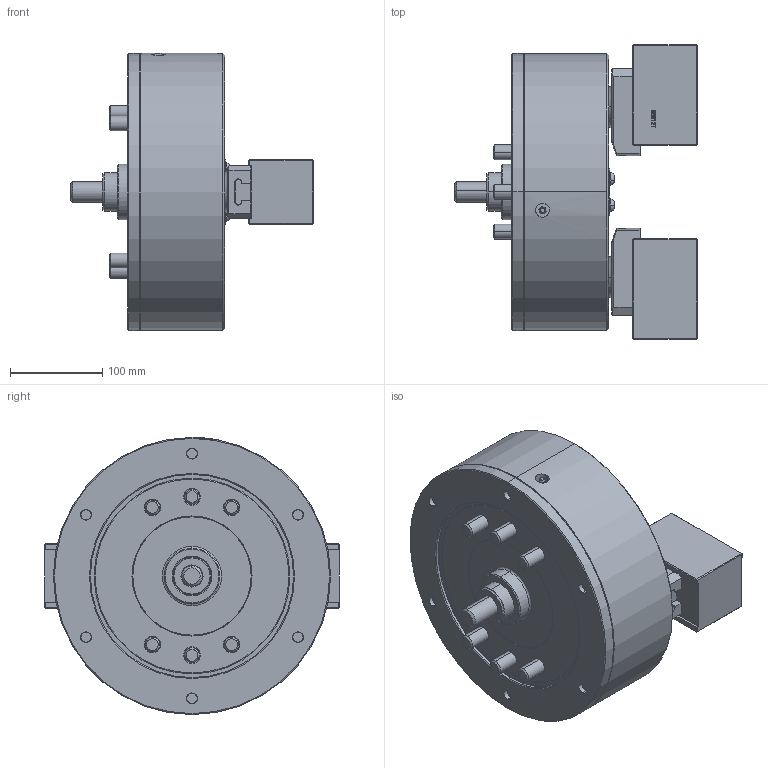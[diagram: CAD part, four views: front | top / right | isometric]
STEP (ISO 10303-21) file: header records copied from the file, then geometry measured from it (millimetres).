
FILE_DESCRIPTION (( 'STEP AP214' ), '1' );
FILE_NAME ('PWT12_CL_ID.STEP', '2019-10-23T00:01:46', ( '' ), ( '' ), 'SwSTEP 2.0', 'SolidWorks 2017', '' );
FILE_SCHEMA (( 'AUTOMOTIVE_DESIGN' ));
Length unit declared in the file: millimetre
Products named in the file (5): 結合_ID; 0030116025; 61P332346; 61P420193; PWT12_CL_ID
Assembly tree (9 placements, depth 2):
  PWT12_CL_ID
    61P420193  x2
    61P332346  x2
    0030116025  x4
    結合_ID
Bounding box: 262.8 x 318.55 x 300 mm (x, y, z)
Volume: 8453274.7 mm3; surface area: 520457.5 mm2
Topology: 9 solids, 10 shells, 1667 faces, 4082 edges, 2552 vertices
Faces by surface type: plane 879, cone 271, bspline 233, cylinder 230, torus 54
Entity records: 48723 total; most frequent: CARTESIAN_POINT 16899, ORIENTED_EDGE 6820, DIRECTION 5955, EDGE_CURVE 3410, VERTEX_POINT 2147, LINE 2013, VECTOR 2013, AXIS2_PLACEMENT_3D 1971
